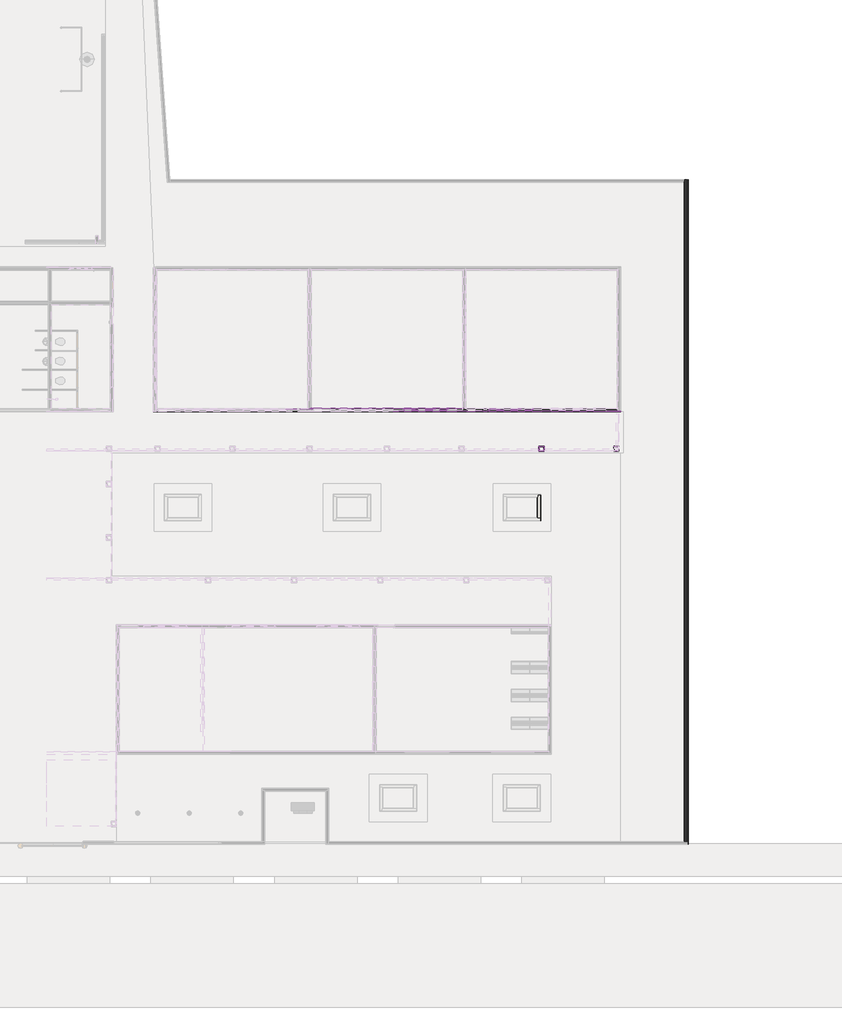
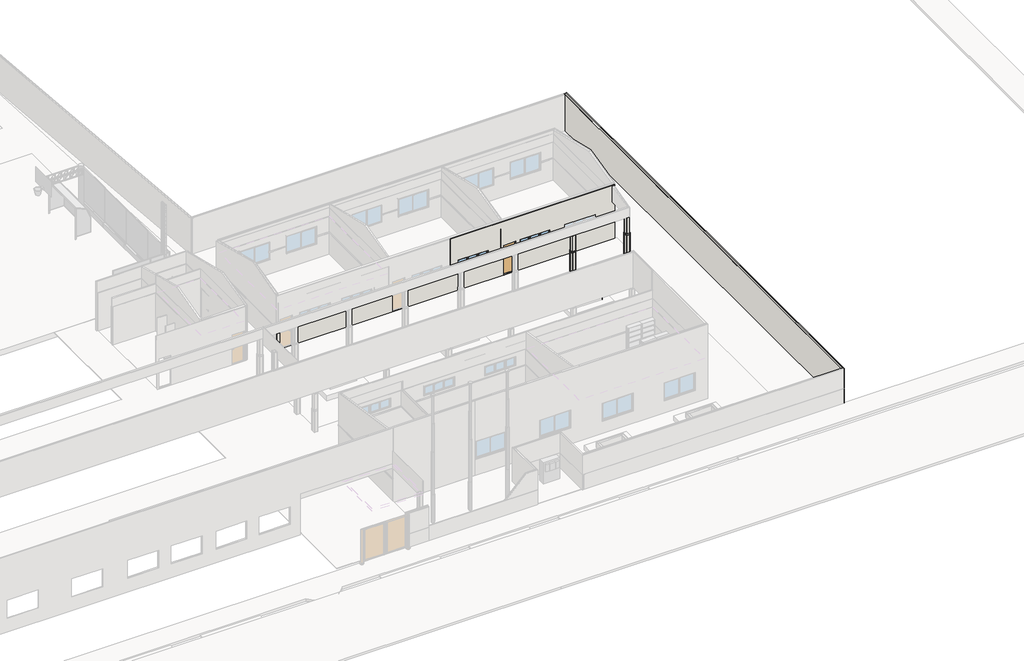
# One storey, part 18 of 28: 36 walls, 2 doors, 2 windows.
"""IFC4 building model written with IfcOpenShell, lengths in millimetres."""

from ifc_helpers import new_model, si_unit, frame, origin, origin_with_axes, place, context, project, spatial, polyline, outline, extrude, faceted_brep, transform, mapped, element, save
from components import door_95b59213, pf15_l82cm_686caa18, window_2x60x220_bcaba8dd

model = new_model("IFC4")

# Units and contexts
model_context = context("Model", 3, world=origin())
ifc_project = project(units=[si_unit("LENGTHUNIT", "METRE", prefix="MILLI")], contexts=[model_context])

# Site, building, storey
site = spatial("IfcSite", under=ifc_project)
building = spatial("IfcBuilding", under=site)
storey = spatial("IfcBuildingStorey", under=building, Name="Térreo", Elevation=0.0)

# Doors
placement = place(None, origin())
door_shape = door_95b59213(model_context)
element("IfcDoor", 1, ObjectType="FDE_SO_Soleiras1 : SO14_SoleiraRampadaDesnívelAté2cm_L=14cm_Cimentado 2", at=placement, inside=storey, context=model_context, shape_type="MappedRepresentation", body=[
    mapped(door_shape, transform((-10337.0, 21100.0, 200.0), x_axis=(-1.0, 0.0, 0.0), y_axis=(0.0, -1.0, 0.0), z_axis=(0.0, 0.0, 1.0))),
])
pf15_l82cm_shape = pf15_l82cm_686caa18(model_context)
element("IfcDoor", 2, ObjectType="FDE_PF15_PF16_PF17_PortaemChapadeFerro : PF15_L82cm", at=placement, inside=storey, context=model_context, shape_type="MappedRepresentation", body=[
    mapped(pf15_l82cm_shape, transform((-10337.0, 21105.0, 200.0), x_axis=(-1.0, 0.0, 0.0), y_axis=(0.0, -1.0, 0.0), z_axis=(0.0, 0.0, 1.0))),
])

# Walls
element("IfcWall", 3, ObjectType="FDE_S712_AlvenariadeTijoloCerâmico/Baiano_Alvenaria_9cm - Existente", at=placement, inside=storey, context=model_context, shape_type="Brep", body=[
    faceted_brep([(-180.0, 32270.0, 0.0), (-180.0, 32180.0, 0.0), (-180.0, 152.3387091, 0.0), (-180.0, 152.3387091, 2545.9092161), (-180.0, 32180.0, 2545.9092161), (-180.0, 32270.0, 2545.9092161), (-90.0, 32270.0, 0.0), (-90.0, 32270.0, 2545.9092161), (-90.0, 152.3387091, 2545.9092161), (-90.0, 152.3387091, 0.0)], [[[0, 1, 2, 3, 4, 5]], [[6, 7, 8, 9]], [[2, 1, 0, 6, 9]], [[5, 4, 3, 8, 7]], [[0, 5, 7, 6]], [[3, 2, 9, 8]]]),
])
element("IfcWall", 4, ObjectType="Muro Edificação", at=placement, inside=storey, context=model_context, shape_type="Brep", body=[
    faceted_brep([(-180.0, 32180.0, 0.0), (-180.0, 32159.0, 0.0), (-180.0, 173.3387091, 0.0), (-180.0, 152.3387091, 0.0), (-180.0, 152.3387091, 2545.9092161), (-180.0, 173.3387091, 2545.9092161), (-180.0, 32159.0, 2545.9092161), (-180.0, 32180.0, 2545.9092161), (-30.0, 32180.0, 0.0), (-30.0, 32180.0, 2545.9092161), (-30.0, 152.3387091, 2545.9092161), (-30.0, 152.3387091, 0.0)], [[[0, 1, 2, 3, 4, 5, 6, 7]], [[8, 9, 10, 11]], [[3, 2, 1, 0, 8, 11]], [[7, 6, 5, 4, 10, 9]], [[0, 7, 9, 8]], [[4, 3, 11, 10]]]),
])
element("IfcWall", 5, ObjectType="Pardes Externas_Pintura Acrílica Branco Neve", at=placement, inside=storey, context=model_context, shape_type="Brep", body=[
    faceted_brep([(-30.0, 32291.0, 0.0), (-30.0, 32270.0, 0.0), (-30.0, 32180.0, 0.0), (-30.0, 152.3387091, 0.0), (-30.0, 62.3387091, 0.0), (-30.0, 32.3387091, 0.0), (-30.0, 32.3387091, 1156.7860555), (-30.0, 41.3387091, 1156.7860555), (-30.0, 41.3387091, 2551.1739106), (-30.0, 62.3387091, 2551.1739106), (-30.0, 32270.0, 2551.1739106), (-30.0, 32291.0, 2551.1739106), (-9.0, 32291.0, 0.0), (-9.0, 32291.0, 2551.1739106), (-9.0, 41.3387091, 2551.1739106), (-9.0, 41.3387091, 1156.7860555), (-9.0, 32.3387091, 1156.7860555), (-9.0, 32.3387091, 0.0)], [[[0, 1, 2, 3, 4, 5, 6, 7, 8, 9, 10, 11]], [[12, 13, 14, 15, 16, 17]], [[5, 4, 3, 2, 1, 0, 12, 17]], [[11, 10, 9, 8, 14, 13]], [[0, 11, 13, 12]], [[15, 7, 6, 16]], [[6, 5, 17, 16]], [[8, 7, 15, 14]]]),
])
element("IfcWall", 6, ObjectType="Revestimento Cerâmico 10x10cm", at=placement, inside=storey, context=model_context, shape_type="Brep", body=[
    faceted_brep([(-10950.0, 21180.0, 0.0), (-18305.0, 21180.0, 0.0), (-18335.0, 21180.0, 0.0), (-18335.0, 21180.0, 1730.1789081), (-18196.0, 21180.0, 1730.1789081), (-18196.0, 21180.0, 220.0), (-17362.0, 21180.0, 220.0), (-17362.0, 21180.0, 1730.1789081), (-16897.0, 21180.0, 1730.1789081), (-16897.0, 21180.0, 1665.0), (-14827.0, 21180.0, 1665.0), (-14827.0, 21180.0, 1730.1789081), (-13789.0, 21180.0, 1730.1789081), (-13789.0, 21180.0, 1665.0), (-11719.0, 21180.0, 1665.0), (-11719.0, 21180.0, 1730.1789081), (-10950.0, 21180.0, 1730.1789081), (-18335.0, 21150.0, 0.0), (-10950.0, 21150.0, 0.0), (-10950.0, 21150.0, 1730.1789081), (-11719.0, 21150.0, 1730.1789081), (-11719.0, 21150.0, 1665.0), (-13789.0, 21150.0, 1665.0), (-13789.0, 21150.0, 1730.1789081), (-14827.0, 21150.0, 1730.1789081), (-14827.0, 21150.0, 1665.0), (-16897.0, 21150.0, 1665.0), (-16897.0, 21150.0, 1730.1789081), (-17362.0, 21150.0, 1730.1789081), (-17362.0, 21150.0, 1600.0), (-17362.0, 21150.0, 220.0), (-18196.0, 21150.0, 220.0), (-18196.0, 21150.0, 1600.0), (-18196.0, 21150.0, 1730.1789081), (-18335.0, 21150.0, 1730.1789081)], [[[0, 1, 2, 3, 4, 5, 6, 7, 8, 9, 10, 11, 12, 13, 14, 15, 16]], [[17, 18, 19, 20, 21, 22, 23, 24, 25, 26, 27, 28, 29, 30, 31, 32, 33, 34]], [[2, 1, 0, 18, 17]], [[19, 16, 15, 20]], [[3, 34, 33, 4]], [[7, 28, 27, 8]], [[23, 12, 11, 24]], [[0, 16, 19, 18]], [[3, 2, 17, 34]], [[31, 5, 4, 33, 32]], [[6, 30, 29, 28, 7]], [[5, 31, 30, 6]], [[14, 21, 20, 15]], [[22, 13, 12, 23]], [[21, 14, 13, 22]], [[10, 25, 24, 11]], [[26, 9, 8, 27]], [[25, 10, 9, 26]]]),
])
element("IfcWall", 7, ObjectType="Pardes Internas_Pintura Acrílica Branco Neve 2", at=placement, inside=storey, context=model_context, shape_type="SweptSolid", body=[
    extrude(outline(polyline([(2900.8, -18320.0), (1824.9435125, -18320.0), (1824.9435125, -18196.0), (2332.0, -18196.0), (2332.0, -17362.0), (1824.9435125, -17362.0), (1824.9435125, -16897.0), (2335.0, -16897.0), (2335.0, -14827.0), (1824.9435125, -14827.0), (1824.9435125, -13789.0), (2335.0, -13789.0), (2335.0, -11719.0), (1824.9435125, -11719.0), (1824.9435125, -10920.0), (2900.8, -10920.0), (2900.8, -18320.0)])), frame((0.0, 21180.0, 0.0), z_axis=(0.0, 1.0, 0.0), x_axis=(0.0, 0.0, 1.0)), (0.0, 0.0, 1.0), 31.0),
])
element("IfcWall", 8, ObjectType="FDE_S712_AlvenariadeTijoloCerâmico/Baiano_Alvenaria_9cm - Existente", at=placement, inside=storey, context=model_context, shape_type="Brep", body=[
    faceted_brep([(-25830.0, 21060.0, 0.0), (-3420.0, 21060.0, 0.0), (-3420.0, 21060.0, 4071.192274), (-25830.0, 21060.0, 4071.192274), (-25730.0, 21060.0, 200.0), (-25730.0, 21060.0, 1731.0528047), (-25730.0, 21060.0, 1824.9435125), (-25730.0, 21060.0, 2312.0), (-24896.0, 21060.0, 2312.0), (-24896.0, 21060.0, 1824.9435125), (-24896.0, 21060.0, 1731.0528047), (-24896.0, 21060.0, 200.0), (-18196.0, 21060.0, 220.0), (-18196.0, 21060.0, 1731.0528047), (-18196.0, 21060.0, 1824.9435125), (-18196.0, 21060.0, 2332.0), (-17362.0, 21060.0, 2332.0), (-17362.0, 21060.0, 1824.9435125), (-17362.0, 21060.0, 1731.0528047), (-17362.0, 21060.0, 220.0), (-22361.0, 21060.0, 2335.0), (-22361.0, 21060.0, 1824.9435125), (-22361.0, 21060.0, 1731.0528047), (-22361.0, 21060.0, 1665.0), (-24431.0, 21060.0, 1665.0), (-24431.0, 21060.0, 1731.0528047), (-24431.0, 21060.0, 1824.9435125), (-24431.0, 21060.0, 2335.0), (-19521.0, 21060.0, 2335.0), (-19521.0, 21060.0, 1824.9435125), (-19521.0, 21060.0, 1731.0528047), (-19521.0, 21060.0, 1665.0), (-21591.0, 21060.0, 1665.0), (-21591.0, 21060.0, 1731.0528047), (-21591.0, 21060.0, 1824.9435125), (-21591.0, 21060.0, 2335.0), (-14827.0, 21060.0, 2335.0), (-14827.0, 21060.0, 1824.9435125), (-14827.0, 21060.0, 1731.0528047), (-14827.0, 21060.0, 1665.0), (-16897.0, 21060.0, 1665.0), (-16897.0, 21060.0, 1731.0528047), (-16897.0, 21060.0, 1824.9435125), (-16897.0, 21060.0, 2335.0), (-10754.0, 21060.0, 200.0), (-10754.0, 21060.0, 1700.0), (-10754.0, 21060.0, 1731.0528047), (-10754.0, 21060.0, 1824.9435125), (-10754.0, 21060.0, 2312.0), (-9920.0, 21060.0, 2312.0), (-9920.0, 21060.0, 1824.9435125), (-9920.0, 21060.0, 1731.0528047), (-9920.0, 21060.0, 1700.0), (-9920.0, 21060.0, 200.0), (-7585.0, 21060.0, 2335.0), (-7585.0, 21060.0, 1824.9435125), (-7585.0, 21060.0, 1731.0528047), (-7585.0, 21060.0, 1700.0), (-7585.0, 21060.0, 1665.0), (-9655.0, 21060.0, 1665.0), (-9655.0, 21060.0, 1700.0), (-9655.0, 21060.0, 1731.0528047), (-9655.0, 21060.0, 1824.9435125), (-9655.0, 21060.0, 2335.0), (-11719.0, 21060.0, 2335.0), (-11719.0, 21060.0, 1824.9435125), (-11719.0, 21060.0, 1731.0528047), (-11719.0, 21060.0, 1700.0), (-11719.0, 21060.0, 1665.0), (-13789.0, 21060.0, 1665.0), (-13789.0, 21060.0, 1700.0), (-13789.0, 21060.0, 1731.0528047), (-13789.0, 21060.0, 1824.9435125), (-13789.0, 21060.0, 2335.0), (-4585.0, 21060.0, 2335.0), (-4585.0, 21060.0, 1824.9435125), (-4585.0, 21060.0, 1731.0528047), (-4585.0, 21060.0, 1700.0), (-4585.0, 21060.0, 1665.0), (-6655.0, 21060.0, 1665.0), (-6655.0, 21060.0, 1700.0), (-6655.0, 21060.0, 1731.0528047), (-6655.0, 21060.0, 1824.9435125), (-6655.0, 21060.0, 2335.0), (-3420.0, 21150.0, 0.0), (-3450.0, 21150.0, 0.0), (-10920.0, 21150.0, 0.0), (-10950.0, 21150.0, 0.0), (-18430.0, 21150.0, 0.0), (-18460.0, 21150.0, 0.0), (-25830.0, 21150.0, 0.0), (-25830.0, 21150.0, 1730.538599), (-25830.0, 21150.0, 4093.692274), (-3420.0, 21150.0, 4093.692274), (-3420.0, 21150.0, 1730.1789081), (-25730.0, 21150.0, 2312.0), (-25730.0, 21150.0, 1824.9435125), (-25730.0, 21150.0, 1730.538599), (-25730.0, 21150.0, 200.0), (-24896.0, 21150.0, 200.0), (-24896.0, 21150.0, 1730.538599), (-24896.0, 21150.0, 1824.9435125), (-24896.0, 21150.0, 2312.0), (-18196.0, 21150.0, 2332.0), (-18196.0, 21150.0, 1824.9435125), (-18196.0, 21150.0, 1731.0528047), (-18196.0, 21150.0, 220.0), (-17362.0, 21150.0, 220.0), (-17362.0, 21150.0, 1731.0528047), (-17362.0, 21150.0, 1824.9435125), (-17362.0, 21150.0, 2332.0), (-11719.0, 21150.0, 1665.0), (-11719.0, 21150.0, 1731.0528047), (-11719.0, 21150.0, 1824.9435125), (-11719.0, 21150.0, 2335.0), (-13789.0, 21150.0, 2335.0), (-13789.0, 21150.0, 1824.9435125), (-13789.0, 21150.0, 1731.0528047), (-13789.0, 21150.0, 1665.0), (-14827.0, 21150.0, 1665.0), (-14827.0, 21150.0, 1731.0528047), (-14827.0, 21150.0, 1824.9435125), (-14827.0, 21150.0, 2335.0), (-16897.0, 21150.0, 2335.0), (-16897.0, 21150.0, 1824.9435125), (-16897.0, 21150.0, 1731.0528047), (-16897.0, 21150.0, 1665.0), (-22361.0, 21150.0, 1665.0), (-22361.0, 21150.0, 1730.538599), (-22361.0, 21150.0, 1731.0528047), (-22361.0, 21150.0, 1824.9435125), (-22361.0, 21150.0, 2335.0), (-24431.0, 21150.0, 2335.0), (-24431.0, 21150.0, 1824.9435125), (-24431.0, 21150.0, 1730.538599), (-24431.0, 21150.0, 1665.0), (-19521.0, 21150.0, 1665.0), (-19521.0, 21150.0, 1730.538599), (-19521.0, 21150.0, 1731.0528047), (-19521.0, 21150.0, 1824.9435125), (-19521.0, 21150.0, 2335.0), (-21591.0, 21150.0, 2335.0), (-21591.0, 21150.0, 1824.9435125), (-21591.0, 21150.0, 1731.0528047), (-21591.0, 21150.0, 1730.538599), (-21591.0, 21150.0, 1665.0), (-10754.0, 21150.0, 2312.0), (-10754.0, 21150.0, 1824.9435125), (-10754.0, 21150.0, 1731.0528047), (-10754.0, 21150.0, 200.0), (-9920.0, 21150.0, 200.0), (-9920.0, 21150.0, 1731.0528047), (-9920.0, 21150.0, 1824.9435125), (-9920.0, 21150.0, 2312.0), (-4585.0, 21150.0, 1665.0), (-4585.0, 21150.0, 1731.0528047), (-4585.0, 21150.0, 1824.9435125), (-4585.0, 21150.0, 2335.0), (-6655.0, 21150.0, 2335.0), (-6655.0, 21150.0, 1824.9435125), (-6655.0, 21150.0, 1731.0528047), (-6655.0, 21150.0, 1665.0), (-7585.0, 21150.0, 1665.0), (-7585.0, 21150.0, 1731.0528047), (-7585.0, 21150.0, 1824.9435125), (-7585.0, 21150.0, 2335.0), (-9655.0, 21150.0, 2335.0), (-9655.0, 21150.0, 1824.9435125), (-9655.0, 21150.0, 1731.0528047), (-9655.0, 21150.0, 1665.0)], [[[0, 1, 2, 3], [4, 5, 6, 7, 8, 9, 10, 11], [12, 13, 14, 15, 16, 17, 18, 19], [20, 21, 22, 23, 24, 25, 26, 27], [28, 29, 30, 31, 32, 33, 34, 35], [36, 37, 38, 39, 40, 41, 42, 43], [44, 45, 46, 47, 48, 49, 50, 51, 52, 53], [54, 55, 56, 57, 58, 59, 60, 61, 62, 63], [64, 65, 66, 67, 68, 69, 70, 71, 72, 73], [74, 75, 76, 77, 78, 79, 80, 81, 82, 83]], [[84, 85, 86, 87, 88, 89, 90, 91, 92, 93, 94], [95, 96, 97, 98, 99, 100, 101, 102], [103, 104, 105, 106, 107, 108, 109, 110], [111, 112, 113, 114, 115, 116, 117, 118], [119, 120, 121, 122, 123, 124, 125, 126], [127, 128, 129, 130, 131, 132, 133, 134, 135], [136, 137, 138, 139, 140, 141, 142, 143, 144, 145], [146, 147, 148, 149, 150, 151, 152, 153], [154, 155, 156, 157, 158, 159, 160, 161], [162, 163, 164, 165, 166, 167, 168, 169]], [[1, 0, 90, 89, 88, 87, 86, 85, 84]], [[4, 98, 97, 96, 95, 7, 6, 5]], [[7, 95, 102, 8]], [[99, 11, 10, 9, 8, 102, 101, 100]], [[98, 4, 11, 99]], [[12, 106, 105, 104, 103, 15, 14, 13]], [[15, 103, 110, 16]], [[107, 19, 18, 17, 16, 110, 109, 108]], [[106, 12, 19, 107]], [[44, 149, 148, 147, 146, 48, 47, 46, 45]], [[48, 146, 153, 49]], [[150, 53, 52, 51, 50, 49, 153, 152, 151]], [[149, 44, 53, 150]], [[154, 78, 77, 76, 75, 74, 157, 156, 155]], [[157, 74, 83, 158]], [[158, 83, 82, 81, 80, 79, 161, 160, 159]], [[78, 154, 161, 79]], [[162, 58, 57, 56, 55, 54, 165, 164, 163]], [[165, 54, 63, 166]], [[166, 63, 62, 61, 60, 59, 169, 168, 167]], [[58, 162, 169, 59]], [[1, 84, 94, 93, 2]], [[3, 2, 93, 92]], [[127, 23, 22, 21, 20, 131, 130, 129, 128]], [[131, 20, 27, 132]], [[132, 27, 26, 25, 24, 135, 134, 133]], [[23, 127, 135, 24]], [[136, 31, 30, 29, 28, 140, 139, 138, 137]], [[140, 28, 35, 141]], [[141, 35, 34, 33, 32, 145, 144, 143, 142]], [[31, 136, 145, 32]], [[111, 68, 67, 66, 65, 64, 114, 113, 112]], [[114, 64, 73, 115]], [[115, 73, 72, 71, 70, 69, 118, 117, 116]], [[68, 111, 118, 69]], [[119, 39, 38, 37, 36, 122, 121, 120]], [[122, 36, 43, 123]], [[123, 43, 42, 41, 40, 126, 125, 124]], [[39, 119, 126, 40]], [[90, 0, 3, 92, 91]]]),
])
element("IfcWall", 9, ObjectType="Revestimento Cerâmico 10x10cm", at=placement, inside=storey, context=model_context, shape_type="Brep", body=[
    faceted_brep([(-25920.0, 21030.0, 0.0), (-3270.0, 21030.0, 0.0), (-3270.0, 21030.0, 1731.0528047), (-4585.0, 21030.0, 1731.0528047), (-4585.0, 21030.0, 1665.0), (-6655.0, 21030.0, 1665.0), (-6655.0, 21030.0, 1731.0528047), (-7585.0, 21030.0, 1731.0528047), (-7585.0, 21030.0, 1665.0), (-9655.0, 21030.0, 1665.0), (-9655.0, 21030.0, 1731.0528047), (-9920.0, 21030.0, 1731.0528047), (-9920.0, 21030.0, 200.0), (-10754.0, 21030.0, 200.0), (-10754.0, 21030.0, 1731.0528047), (-11719.0, 21030.0, 1731.0528047), (-11719.0, 21030.0, 1665.0), (-13789.0, 21030.0, 1665.0), (-13789.0, 21030.0, 1731.0528047), (-14827.0, 21030.0, 1731.0528047), (-14827.0, 21030.0, 1665.0), (-16897.0, 21030.0, 1665.0), (-16897.0, 21030.0, 1731.0528047), (-17362.0, 21030.0, 1731.0528047), (-17362.0, 21030.0, 220.0), (-18196.0, 21030.0, 220.0), (-18196.0, 21030.0, 1731.0528047), (-19521.0, 21030.0, 1731.0528047), (-19521.0, 21030.0, 1665.0), (-21591.0, 21030.0, 1665.0), (-21591.0, 21030.0, 1731.0528047), (-22361.0, 21030.0, 1731.0528047), (-22361.0, 21030.0, 1665.0), (-24431.0, 21030.0, 1665.0), (-24431.0, 21030.0, 1731.0528047), (-24896.0, 21030.0, 1731.0528047), (-24896.0, 21030.0, 200.0), (-25730.0, 21030.0, 200.0), (-25730.0, 21030.0, 1731.0528047), (-25920.0, 21030.0, 1731.0528047), (-25950.0, 21030.0, 1731.0528047), (-25950.0, 21030.0, 220.0), (-25920.0, 21030.0, 220.0), (-3270.0, 21060.0, 0.0), (-3300.0, 21060.0, 0.0), (-3420.0, 21060.0, 0.0), (-10920.0, 21060.0, 0.0), (-18335.0, 21060.0, 0.0), (-25830.0, 21060.0, 0.0), (-25920.0, 21060.0, 0.0), (-25920.0, 21060.0, 220.0), (-25950.0, 21060.0, 220.0), (-25950.0, 21060.0, 1731.0528047), (-25920.0, 21060.0, 1731.0528047), (-25730.0, 21060.0, 1731.0528047), (-25730.0, 21060.0, 200.0), (-24896.0, 21060.0, 200.0), (-24896.0, 21060.0, 1731.0528047), (-24431.0, 21060.0, 1731.0528047), (-24431.0, 21060.0, 1665.0), (-22361.0, 21060.0, 1665.0), (-22361.0, 21060.0, 1731.0528047), (-21591.0, 21060.0, 1731.0528047), (-21591.0, 21060.0, 1665.0), (-19521.0, 21060.0, 1665.0), (-19521.0, 21060.0, 1731.0528047), (-18920.0, 21060.0, 1731.0528047), (-18196.0, 21060.0, 1731.0528047), (-18196.0, 21060.0, 220.0), (-17362.0, 21060.0, 220.0), (-17362.0, 21060.0, 1731.0528047), (-16897.0, 21060.0, 1731.0528047), (-16897.0, 21060.0, 1665.0), (-14827.0, 21060.0, 1665.0), (-14827.0, 21060.0, 1731.0528047), (-13789.0, 21060.0, 1731.0528047), (-13789.0, 21060.0, 1665.0), (-11719.0, 21060.0, 1665.0), (-11719.0, 21060.0, 1731.0528047), (-10754.0, 21060.0, 1731.0528047), (-10754.0, 21060.0, 200.0), (-9920.0, 21060.0, 200.0), (-9920.0, 21060.0, 1731.0528047), (-9655.0, 21060.0, 1731.0528047), (-9655.0, 21060.0, 1665.0), (-7585.0, 21060.0, 1665.0), (-7585.0, 21060.0, 1731.0528047), (-6655.0, 21060.0, 1731.0528047), (-6655.0, 21060.0, 1665.0), (-4585.0, 21060.0, 1665.0), (-4585.0, 21060.0, 1731.0528047), (-3270.0, 21060.0, 1731.0528047)], [[[0, 1, 2, 3, 4, 5, 6, 7, 8, 9, 10, 11, 12, 13, 14, 15, 16, 17, 18, 19, 20, 21, 22, 23, 24, 25, 26, 27, 28, 29, 30, 31, 32, 33, 34, 35, 36, 37, 38, 39, 40, 41, 42]], [[43, 44, 45, 46, 47, 48, 49, 50, 51, 52, 53, 54, 55, 56, 57, 58, 59, 60, 61, 62, 63, 64, 65, 66, 67, 68, 69, 70, 71, 72, 73, 74, 75, 76, 77, 78, 79, 80, 81, 82, 83, 84, 85, 86, 87, 88, 89, 90, 91]], [[1, 0, 49, 48, 47, 46, 45, 44, 43]], [[61, 31, 30, 62]], [[34, 58, 57, 35]], [[65, 27, 26, 67, 66]], [[74, 19, 18, 75]], [[22, 71, 70, 23]], [[78, 15, 14, 79]], [[86, 7, 6, 87]], [[10, 83, 82, 11]], [[2, 91, 90, 3]], [[40, 39, 38, 54, 53, 52]], [[13, 80, 79, 14]], [[81, 12, 11, 82]], [[80, 13, 12, 81]], [[89, 4, 3, 90]], [[5, 88, 87, 6]], [[4, 89, 88, 5]], [[85, 8, 7, 86]], [[9, 84, 83, 10]], [[8, 85, 84, 9]], [[60, 32, 31, 61]], [[33, 59, 58, 34]], [[32, 60, 59, 33]], [[64, 28, 27, 65]], [[29, 63, 62, 30]], [[28, 64, 63, 29]], [[73, 20, 19, 74]], [[21, 72, 71, 22]], [[20, 73, 72, 21]], [[77, 16, 15, 78]], [[17, 76, 75, 18]], [[16, 77, 76, 17]], [[25, 68, 67, 26]], [[69, 24, 23, 70]], [[68, 25, 24, 69]], [[37, 55, 54, 38]], [[56, 36, 35, 57]], [[55, 37, 36, 56]], [[1, 43, 91, 2]], [[51, 50, 42, 41]], [[49, 0, 42, 50]], [[40, 52, 51, 41]]]),
])
element("IfcWall", 10, ObjectType="Faixa - Revestimento Cerâmico Verde Folha 10x10cm", at=placement, inside=storey, context=model_context, shape_type="Brep", body=[
    faceted_brep([(-10754.0, 21060.0, 1824.9435125), (-10754.0, 21060.0, 1731.0528047), (-11719.0, 21060.0, 1731.0528047), (-11719.0, 21060.0, 1824.9435125), (-10754.0, 21030.0, 1731.0528047), (-10754.0, 21030.0, 1824.9435125), (-11719.0, 21030.0, 1824.9435125), (-11719.0, 21030.0, 1731.0528047), (-10754.0, 21039.0, 1731.0528047), (-11719.0, 21039.0, 1731.0528047), (-10754.0, 21039.0, 1824.9435125), (-11719.0, 21039.0, 1824.9435125)], [[[0, 1, 2, 3]], [[4, 5, 6, 7]], [[1, 8, 4, 7, 9, 2]], [[5, 10, 0, 3, 11, 6]], [[1, 0, 10, 5, 4, 8]], [[3, 2, 9, 7, 6, 11]]]),
    faceted_brep([(-9920.0, 21060.0, 1731.0528047), (-9920.0, 21060.0, 1824.9435125), (-9655.0, 21060.0, 1824.9435125), (-9655.0, 21060.0, 1731.0528047), (-9920.0, 21030.0, 1824.9435125), (-9920.0, 21030.0, 1731.0528047), (-9655.0, 21030.0, 1731.0528047), (-9655.0, 21030.0, 1824.9435125), (-9920.0, 21039.0, 1731.0528047), (-9655.0, 21039.0, 1731.0528047), (-9920.0, 21039.0, 1824.9435125), (-9655.0, 21039.0, 1824.9435125)], [[[0, 1, 2, 3]], [[4, 5, 6, 7]], [[5, 8, 0, 3, 9, 6]], [[1, 10, 4, 7, 11, 2]], [[1, 0, 8, 5, 4, 10]], [[3, 2, 11, 7, 6, 9]]]),
    faceted_brep([(-7585.0, 21060.0, 1731.0528047), (-7585.0, 21060.0, 1824.9435125), (-6655.0, 21060.0, 1824.9435125), (-6655.0, 21060.0, 1731.0528047), (-7585.0, 21030.0, 1824.9435125), (-7585.0, 21030.0, 1731.0528047), (-6655.0, 21030.0, 1731.0528047), (-6655.0, 21030.0, 1824.9435125), (-7585.0, 21039.0, 1731.0528047), (-6655.0, 21039.0, 1731.0528047), (-7585.0, 21039.0, 1824.9435125), (-6655.0, 21039.0, 1824.9435125)], [[[0, 1, 2, 3]], [[4, 5, 6, 7]], [[5, 8, 0, 3, 9, 6]], [[1, 10, 4, 7, 11, 2]], [[1, 0, 8, 5, 4, 10]], [[3, 2, 11, 7, 6, 9]]]),
    faceted_brep([(-13789.0, 21060.0, 1824.9435125), (-13789.0, 21060.0, 1731.0528047), (-14315.0, 21060.0, 1731.0528047), (-14827.0, 21060.0, 1731.0528047), (-14827.0, 21060.0, 1824.9435125), (-14315.0, 21060.0, 1824.9435125), (-13789.0, 21030.0, 1731.0528047), (-13789.0, 21030.0, 1824.9435125), (-14827.0, 21030.0, 1824.9435125), (-14827.0, 21030.0, 1731.0528047), (-13789.0, 21039.0, 1731.0528047), (-13789.0, 21039.0, 1824.9435125), (-14827.0, 21039.0, 1824.9435125)], [[[0, 1, 2, 3, 4, 5]], [[6, 7, 8, 9]], [[1, 10, 6, 9, 3, 2]], [[7, 11, 0, 5, 4, 12, 8]], [[1, 0, 11, 7, 6, 10]], [[4, 3, 9, 8, 12]]]),
    faceted_brep([(-3270.0, 21060.0, 1824.9435125), (-3270.0, 21060.0, 1731.0528047), (-4585.0, 21060.0, 1731.0528047), (-4585.0, 21060.0, 1824.9435125), (-3270.0, 21030.0, 1731.0528047), (-3270.0, 21030.0, 1824.9435125), (-4585.0, 21030.0, 1824.9435125), (-4585.0, 21030.0, 1731.0528047), (-3270.0, 21039.0, 1731.0528047), (-4585.0, 21039.0, 1731.0528047), (-3270.0, 21039.0, 1824.9435125), (-4585.0, 21039.0, 1824.9435125)], [[[0, 1, 2, 3]], [[4, 5, 6, 7]], [[1, 8, 4, 7, 9, 2]], [[5, 10, 0, 3, 11, 6]], [[4, 8, 1, 0, 10, 5]], [[3, 2, 9, 7, 6, 11]]]),
])
element("IfcWall", 11, ObjectType="Pardes Externas_Pintura Acrílica Branco Neve", at=placement, inside=storey, context=model_context, shape_type="Brep", body=[
    faceted_brep([(-7246.0, 19330.0, 1794.0), (-7225.0, 19330.0, 1794.0), (-7025.0, 19330.0, 1794.0), (-7004.0, 19330.0, 1794.0), (-7004.0, 19330.0, 2900.0), (-7025.0, 19330.0, 2900.0), (-7225.0, 19330.0, 2900.0), (-7246.0, 19330.0, 2900.0), (-7246.0, 19351.0, 1794.0), (-7246.0, 19351.0, 2900.0), (-7004.0, 19351.0, 2900.0), (-7004.0, 19351.0, 1794.0)], [[[0, 1, 2, 3, 4, 5, 6, 7]], [[8, 9, 10, 11]], [[3, 2, 1, 0, 8, 11]], [[7, 6, 5, 4, 10, 9]], [[0, 7, 9, 8]], [[4, 3, 11, 10]]]),
])
element("IfcWall", 12, ObjectType="Revestimento Cerâmico 10x10cm", at=placement, inside=storey, context=model_context, shape_type="Brep", body=[
    faceted_brep([(-7255.0, 19330.0, 194.0), (-7225.0, 19330.0, 194.0), (-7025.0, 19330.0, 194.0), (-6995.0, 19330.0, 194.0), (-6995.0, 19330.0, 1694.0), (-7025.0, 19330.0, 1694.0), (-7225.0, 19330.0, 1694.0), (-7255.0, 19330.0, 1694.0), (-7255.0, 19360.0, 194.0), (-7255.0, 19360.0, 1694.0), (-6995.0, 19360.0, 1694.0), (-6995.0, 19360.0, 194.0)], [[[0, 1, 2, 3, 4, 5, 6, 7]], [[8, 9, 10, 11]], [[3, 2, 1, 0, 8, 11]], [[7, 6, 5, 4, 10, 9]], [[0, 7, 9, 8]], [[4, 3, 11, 10]]]),
])
element("IfcWall", 13, ObjectType="Revestimento Cerâmico 10x10cm", at=placement, inside=storey, context=model_context, shape_type="Brep", body=[
    faceted_brep([(-7225.0, 19100.0, 194.0), (-7225.0, 19130.0, 194.0), (-7225.0, 19330.0, 194.0), (-7225.0, 19330.0, 1694.0), (-7225.0, 19130.0, 1694.0), (-7225.0, 19100.0, 1694.0), (-7255.0, 19100.0, 194.0), (-7255.0, 19100.0, 1694.0), (-7255.0, 19330.0, 1694.0), (-7255.0, 19330.0, 194.0)], [[[0, 1, 2, 3, 4, 5]], [[6, 7, 8, 9]], [[2, 1, 0, 6, 9]], [[5, 4, 3, 8, 7]], [[3, 2, 9, 8]], [[0, 5, 7, 6]]]),
])
element("IfcWall", 14, ObjectType="Revestimento Cerâmico 10x10cm", at=placement, inside=storey, context=model_context, shape_type="Brep", body=[
    faceted_brep([(-7025.0, 19330.0, 194.0), (-7025.0, 19130.0, 194.0), (-7025.0, 19100.0, 194.0), (-7025.0, 19100.0, 1694.0), (-7025.0, 19130.0, 1694.0), (-7025.0, 19330.0, 1694.0), (-6995.0, 19330.0, 194.0), (-6995.0, 19330.0, 1694.0), (-6995.0, 19100.0, 1694.0), (-6995.0, 19100.0, 194.0)], [[[0, 1, 2, 3, 4, 5]], [[6, 7, 8, 9]], [[2, 1, 0, 6, 9]], [[5, 4, 3, 8, 7]], [[0, 5, 7, 6]], [[3, 2, 9, 8]]]),
])
element("IfcWall", 15, ObjectType="Revestimento Cerâmico 10x10cm", at=placement, inside=storey, context=model_context, shape_type="SweptSolid", body=[
    extrude(outline(polyline([(-7025.0, 19100.0), (-7225.0, 19100.0), (-7225.0, 19130.0), (-7025.0, 19130.0), (-7025.0, 19100.0)])), frame((0.0, 0.0, 194.0), z_axis=(0.0, 0.0, 1.0), x_axis=(1.0, 0.0, 0.0)), (0.0, 0.0, 1.0), 1500.0),
])
element("IfcWall", 16, ObjectType="Faixa - Revestimento Cerâmico Verde Folha 10x10cm", at=placement, inside=storey, context=model_context, shape_type="Brep", body=[
    faceted_brep([(-7255.0, 19330.0, 1694.0), (-7225.0, 19330.0, 1694.0), (-7025.0, 19330.0, 1694.0), (-6995.0, 19330.0, 1694.0), (-6995.0, 19330.0, 1794.0), (-7025.0, 19330.0, 1794.0), (-7225.0, 19330.0, 1794.0), (-7255.0, 19330.0, 1794.0), (-7255.0, 19360.0, 1694.0), (-7255.0, 19360.0, 1794.0), (-6995.0, 19360.0, 1794.0), (-6995.0, 19360.0, 1694.0)], [[[0, 1, 2, 3, 4, 5, 6, 7]], [[8, 9, 10, 11]], [[3, 2, 1, 0, 8, 11]], [[7, 6, 5, 4, 10, 9]], [[4, 3, 11, 10]], [[0, 7, 9, 8]]]),
])
element("IfcWall", 17, ObjectType="Faixa - Revestimento Cerâmico Verde Folha 10x10cm", at=placement, inside=storey, context=model_context, shape_type="Brep", body=[
    faceted_brep([(-7025.0, 19330.0, 1694.0), (-7025.0, 19130.0, 1694.0), (-7025.0, 19100.0, 1694.0), (-7025.0, 19100.0, 1794.0), (-7025.0, 19130.0, 1794.0), (-7025.0, 19330.0, 1794.0), (-6995.0, 19330.0, 1694.0), (-6995.0, 19330.0, 1794.0), (-6995.0, 19100.0, 1794.0), (-6995.0, 19100.0, 1694.0)], [[[0, 1, 2, 3, 4, 5]], [[6, 7, 8, 9]], [[2, 1, 0, 6, 9]], [[5, 4, 3, 8, 7]], [[0, 5, 7, 6]], [[3, 2, 9, 8]]]),
])
element("IfcWall", 18, ObjectType="Faixa - Revestimento Cerâmico Verde Folha 10x10cm", at=placement, inside=storey, context=model_context, shape_type="Brep", body=[
    faceted_brep([(-7255.0, 19100.0, 1694.0), (-7025.0, 19100.0, 1694.0), (-7025.0, 19100.0, 1794.0), (-7255.0, 19100.0, 1794.0), (-7255.0, 19130.0, 1694.0), (-7255.0, 19130.0, 1794.0), (-7225.0, 19130.0, 1794.0), (-7025.0, 19130.0, 1794.0), (-7025.0, 19130.0, 1694.0), (-7225.0, 19130.0, 1694.0), (-7025.0, 19109.0, 1794.0)], [[[0, 1, 2, 3]], [[4, 5, 6, 7, 8, 9]], [[1, 0, 4, 9, 8]], [[3, 2, 10, 7, 6, 5]], [[2, 1, 8, 7, 10]], [[0, 3, 5, 4]]]),
])
element("IfcWall", 19, ObjectType="Faixa - Revestimento Cerâmico Verde Folha 10x10cm", at=placement, inside=storey, context=model_context, shape_type="SweptSolid", body=[
    extrude(outline(polyline([(-7255.0, 19130.0), (-7255.0, 19330.0), (-7225.0, 19330.0), (-7225.0, 19130.0), (-7255.0, 19130.0)])), frame((0.0, 0.0, 1694.0), z_axis=(0.0, 0.0, 1.0), x_axis=(1.0, 0.0, 0.0)), (0.0, 0.0, 1.0), 100.0),
])
element("IfcWall", 20, ObjectType="Pardes Externas_Pintura Acrílica Branco Neve", at=placement, inside=storey, context=model_context, shape_type="SweptSolid", body=[
    extrude(outline(polyline([(-7025.0, 19109.0), (-7225.0, 19109.0), (-7225.0, 19130.0), (-7025.0, 19130.0), (-7025.0, 19109.0)])), frame((0.0, 0.0, 1794.0), z_axis=(0.0, 0.0, 1.0), x_axis=(1.0, 0.0, 0.0)), (0.0, 0.0, 1.0), 1106.0),
])
element("IfcWall", 21, ObjectType="Pardes Externas_Pintura Acrílica Branco Neve", at=placement, inside=storey, context=model_context, shape_type="Brep", body=[
    faceted_brep([(-7025.0, 19330.0, 1794.0), (-7025.0, 19130.0, 1794.0), (-7025.0, 19109.0, 1794.0), (-7025.0, 19109.0, 2900.0), (-7025.0, 19130.0, 2900.0), (-7025.0, 19330.0, 2900.0), (-7004.0, 19330.0, 1794.0), (-7004.0, 19330.0, 2900.0), (-7004.0, 19109.0, 2900.0), (-7004.0, 19109.0, 1794.0)], [[[0, 1, 2, 3, 4, 5]], [[6, 7, 8, 9]], [[2, 1, 0, 6, 9]], [[5, 4, 3, 8, 7]], [[3, 2, 9, 8]], [[0, 5, 7, 6]]]),
])
element("IfcWall", 22, ObjectType="Pardes Externas_Pintura Acrílica Branco Neve", at=placement, inside=storey, context=model_context, shape_type="Brep", body=[
    faceted_brep([(-7246.0, 19330.0, 1794.0), (-7246.0, 19109.0, 1794.0), (-7246.0, 19109.0, 2900.0), (-7246.0, 19330.0, 2900.0), (-7225.0, 19330.0, 1794.0), (-7225.0, 19330.0, 2900.0), (-7225.0, 19130.0, 2900.0), (-7225.0, 19109.0, 2900.0), (-7225.0, 19109.0, 1794.0), (-7225.0, 19130.0, 1794.0)], [[[0, 1, 2, 3]], [[4, 5, 6, 7, 8, 9]], [[1, 0, 4, 9, 8]], [[3, 2, 7, 6, 5]], [[2, 1, 8, 7]], [[0, 3, 5, 4]]]),
])
element("IfcWall", 23, ObjectType="Pardes Externas_Pintura Acrílica Branco Neve", at=placement, inside=storey, context=model_context, shape_type="Brep", body=[
    faceted_brep([(-3621.0, 19330.0, 1794.0), (-3600.0, 19330.0, 1794.0), (-3400.0, 19330.0, 1794.0), (-3379.0, 19330.0, 1794.0), (-3379.0, 19330.0, 2900.0), (-3400.0, 19330.0, 2900.0), (-3600.0, 19330.0, 2900.0), (-3621.0, 19330.0, 2900.0), (-3621.0, 19351.0, 1794.0), (-3621.0, 19351.0, 2900.0), (-3379.0, 19351.0, 2900.0), (-3379.0, 19351.0, 1794.0)], [[[0, 1, 2, 3, 4, 5, 6, 7]], [[8, 9, 10, 11]], [[3, 2, 1, 0, 8, 11]], [[7, 6, 5, 4, 10, 9]], [[0, 7, 9, 8]], [[4, 3, 11, 10]]]),
])
element("IfcWall", 24, ObjectType="Revestimento Cerâmico 10x10cm", at=placement, inside=storey, context=model_context, shape_type="Brep", body=[
    faceted_brep([(-3630.0, 19330.0, 194.0), (-3600.0, 19330.0, 194.0), (-3400.0, 19330.0, 194.0), (-3370.0, 19330.0, 194.0), (-3370.0, 19330.0, 1694.0), (-3400.0, 19330.0, 1694.0), (-3600.0, 19330.0, 1694.0), (-3630.0, 19330.0, 1694.0), (-3630.0, 19360.0, 194.0), (-3630.0, 19360.0, 1694.0), (-3370.0, 19360.0, 1694.0), (-3370.0, 19360.0, 194.0)], [[[0, 1, 2, 3, 4, 5, 6, 7]], [[8, 9, 10, 11]], [[3, 2, 1, 0, 8, 11]], [[7, 6, 5, 4, 10, 9]], [[0, 7, 9, 8]], [[4, 3, 11, 10]]]),
])
element("IfcWall", 25, ObjectType="Revestimento Cerâmico 10x10cm", at=placement, inside=storey, context=model_context, shape_type="Brep", body=[
    faceted_brep([(-3600.0, 19100.0, 194.0), (-3600.0, 19130.0, 194.0), (-3600.0, 19330.0, 194.0), (-3600.0, 19330.0, 1694.0), (-3600.0, 19130.0, 1694.0), (-3600.0, 19100.0, 1694.0), (-3630.0, 19100.0, 194.0), (-3630.0, 19100.0, 1694.0), (-3630.0, 19330.0, 1694.0), (-3630.0, 19330.0, 194.0)], [[[0, 1, 2, 3, 4, 5]], [[6, 7, 8, 9]], [[2, 1, 0, 6, 9]], [[5, 4, 3, 8, 7]], [[3, 2, 9, 8]], [[0, 5, 7, 6]]]),
])
element("IfcWall", 26, ObjectType="Revestimento Cerâmico 10x10cm", at=placement, inside=storey, context=model_context, shape_type="Brep", body=[
    faceted_brep([(-3400.0, 19330.0, 194.0), (-3400.0, 19130.0, 194.0), (-3400.0, 19100.0, 194.0), (-3400.0, 19100.0, 1694.0), (-3400.0, 19130.0, 1694.0), (-3400.0, 19330.0, 1694.0), (-3370.0, 19330.0, 194.0), (-3370.0, 19330.0, 1694.0), (-3370.0, 19100.0, 1694.0), (-3370.0, 19100.0, 194.0)], [[[0, 1, 2, 3, 4, 5]], [[6, 7, 8, 9]], [[2, 1, 0, 6, 9]], [[5, 4, 3, 8, 7]], [[0, 5, 7, 6]], [[3, 2, 9, 8]]]),
])
element("IfcWall", 27, ObjectType="Revestimento Cerâmico 10x10cm", at=placement, inside=storey, context=model_context, shape_type="SweptSolid", body=[
    extrude(outline(polyline([(-3400.0, 19100.0), (-3600.0, 19100.0), (-3600.0, 19130.0), (-3400.0, 19130.0), (-3400.0, 19100.0)])), frame((0.0, 0.0, 194.0), z_axis=(0.0, 0.0, 1.0), x_axis=(1.0, 0.0, 0.0)), (0.0, 0.0, 1.0), 1500.0),
])
element("IfcWall", 28, ObjectType="Faixa - Revestimento Cerâmico Verde Folha 10x10cm", at=placement, inside=storey, context=model_context, shape_type="Brep", body=[
    faceted_brep([(-3630.0, 19330.0, 1694.0), (-3600.0, 19330.0, 1694.0), (-3400.0, 19330.0, 1694.0), (-3370.0, 19330.0, 1694.0), (-3370.0, 19330.0, 1794.0), (-3400.0, 19330.0, 1794.0), (-3600.0, 19330.0, 1794.0), (-3630.0, 19330.0, 1794.0), (-3630.0, 19360.0, 1694.0), (-3630.0, 19360.0, 1794.0), (-3370.0, 19360.0, 1794.0), (-3370.0, 19360.0, 1694.0)], [[[0, 1, 2, 3, 4, 5, 6, 7]], [[8, 9, 10, 11]], [[3, 2, 1, 0, 8, 11]], [[7, 6, 5, 4, 10, 9]], [[4, 3, 11, 10]], [[0, 7, 9, 8]]]),
])
element("IfcWall", 29, ObjectType="Faixa - Revestimento Cerâmico Verde Folha 10x10cm", at=placement, inside=storey, context=model_context, shape_type="Brep", body=[
    faceted_brep([(-3400.0, 19330.0, 1694.0), (-3400.0, 19130.0, 1694.0), (-3400.0, 19100.0, 1694.0), (-3400.0, 19100.0, 1794.0), (-3400.0, 19130.0, 1794.0), (-3400.0, 19330.0, 1794.0), (-3370.0, 19330.0, 1694.0), (-3370.0, 19330.0, 1794.0), (-3370.0, 19100.0, 1794.0), (-3370.0, 19100.0, 1694.0)], [[[0, 1, 2, 3, 4, 5]], [[6, 7, 8, 9]], [[2, 1, 0, 6, 9]], [[5, 4, 3, 8, 7]], [[0, 5, 7, 6]], [[3, 2, 9, 8]]]),
])
element("IfcWall", 30, ObjectType="Faixa - Revestimento Cerâmico Verde Folha 10x10cm", at=placement, inside=storey, context=model_context, shape_type="Brep", body=[
    faceted_brep([(-3630.0, 19100.0, 1694.0), (-3400.0, 19100.0, 1694.0), (-3400.0, 19100.0, 1794.0), (-3630.0, 19100.0, 1794.0), (-3630.0, 19130.0, 1694.0), (-3630.0, 19130.0, 1794.0), (-3600.0, 19130.0, 1794.0), (-3400.0, 19130.0, 1794.0), (-3400.0, 19130.0, 1694.0), (-3600.0, 19130.0, 1694.0), (-3400.0, 19109.0, 1794.0)], [[[0, 1, 2, 3]], [[4, 5, 6, 7, 8, 9]], [[1, 0, 4, 9, 8]], [[3, 2, 10, 7, 6, 5]], [[0, 3, 5, 4]], [[2, 1, 8, 7, 10]]]),
])
element("IfcWall", 31, ObjectType="Faixa - Revestimento Cerâmico Verde Folha 10x10cm", at=placement, inside=storey, context=model_context, shape_type="SweptSolid", body=[
    extrude(outline(polyline([(-3630.0, 19130.0), (-3630.0, 19330.0), (-3600.0, 19330.0), (-3600.0, 19130.0), (-3630.0, 19130.0)])), frame((0.0, 0.0, 1694.0), z_axis=(0.0, 0.0, 1.0), x_axis=(1.0, 0.0, 0.0)), (0.0, 0.0, 1.0), 100.0),
])
element("IfcWall", 32, ObjectType="Pardes Externas_Pintura Acrílica Branco Neve", at=placement, inside=storey, context=model_context, shape_type="Brep", body=[
    faceted_brep([(-3600.0, 19109.0, 1794.0), (-3400.0, 19109.0, 1794.0), (-3400.0, 19109.0, 2900.0), (-3409.0, 19109.0, 2900.0), (-3600.0, 19109.0, 2900.0), (-3600.0, 19130.0, 1794.0), (-3600.0, 19130.0, 2900.0), (-3400.0, 19130.0, 2900.0), (-3400.0, 19130.0, 1794.0)], [[[0, 1, 2, 3, 4]], [[5, 6, 7, 8]], [[1, 0, 5, 8]], [[4, 3, 2, 7, 6]], [[0, 4, 6, 5]], [[2, 1, 8, 7]]]),
])
element("IfcWall", 33, ObjectType="FDE_S713_AlvenariadeTijoloLaminadoaVista_Alvenaria_1/2TijoloAlternado_11,5cm", at=placement, inside=storey, context=model_context, shape_type="Brep", body=[
    faceted_brep([(-7192.0948906, 15867.1451949, 100.0), (-7192.0948906, 17010.1451949, 100.0), (-7192.0948906, 17010.1451949, 800.0), (-7192.0948906, 15867.1451949, 800.0), (-7307.0948906, 15867.1451949, 100.0), (-7307.0948906, 15867.1451949, 800.0), (-7307.0948906, 16895.1451949, 800.0), (-7307.0948906, 17010.1451949, 800.0), (-7307.0948906, 17010.1451949, 179.0468845), (-7307.0948906, 17010.1451949, 100.0)], [[[0, 1, 2, 3]], [[4, 5, 6, 7, 8, 9]], [[1, 0, 4, 9]], [[3, 2, 7, 6, 5]], [[2, 1, 9, 8, 7]], [[0, 3, 5, 4]]]),
])
element("IfcWall", 34, ObjectType="Pardes Externas_Pintura Acrílica Branco Neve", at=placement, inside=storey, context=model_context, shape_type="Brep", body=[
    faceted_brep([(-7192.0948906, 17010.1451949, 100.0), (-7192.0948906, 15752.1451949, 100.0), (-7192.0948906, 15731.1451949, 100.0), (-7192.0948906, 15731.1451949, 800.0), (-7192.0948906, 15752.1451949, 800.0), (-7192.0948906, 17010.1451949, 800.0), (-7171.0948906, 17010.1451949, 100.0), (-7171.0948906, 17010.1451949, 800.0), (-7171.0948906, 15731.1451949, 800.0), (-7171.0948906, 15731.1451949, 100.0)], [[[0, 1, 2, 3, 4, 5]], [[6, 7, 8, 9]], [[2, 1, 0, 6, 9]], [[5, 4, 3, 8, 7]], [[0, 5, 7, 6]], [[3, 2, 9, 8]]]),
])
element("IfcWall", 35, ObjectType="Pardes Externas_Pintura Acrílica Branco Neve", at=placement, inside=storey, context=model_context, shape_type="Brep", body=[
    faceted_brep([(-7307.0948906, 15867.1451949, 0.0), (-7307.0948906, 16895.1451949, 0.0), (-7307.0948906, 16895.1451949, 800.0), (-7307.0948906, 15867.1451949, 800.0), (-7328.0948906, 15867.1451949, 0.0), (-7328.0948906, 15867.1451949, 800.0), (-7328.0948906, 15888.1451949, 800.0), (-7328.0948906, 16874.1451949, 800.0), (-7328.0948906, 16895.1451949, 800.0), (-7328.0948906, 16895.1451949, 0.0), (-7328.0948906, 16874.1451949, 0.0), (-7328.0948906, 15888.1451949, 0.0)], [[[0, 1, 2, 3]], [[4, 5, 6, 7, 8, 9, 10, 11]], [[1, 0, 4, 11, 10, 9]], [[3, 2, 8, 7, 6, 5]], [[2, 1, 9, 8]], [[0, 3, 5, 4]]]),
])
element("IfcWall", 36, ObjectType="Pardes Externas_Pintura Acrílica Branco Neve", at=placement, inside=storey, context=model_context, shape_type="SweptSolid", body=[
    extrude(outline(polyline([(4013.8205229, -3270.0), (4013.8205229, -14315.0), (1824.9435125, -14315.0), (1824.9435125, -13789.0), (2335.0, -13789.0), (2335.0, -11719.0), (1824.9435125, -11719.0), (1824.9435125, -10754.0), (2312.0, -10754.0), (2312.0, -9920.0), (1824.9435125, -9920.0), (1824.9435125, -9655.0), (2335.0, -9655.0), (2335.0, -7585.0), (1824.9435125, -7585.0), (1824.9435125, -6655.0), (2335.0, -6655.0), (2335.0, -4585.0), (1824.9435125, -4585.0), (1824.9435125, -3270.0), (4013.8205229, -3270.0)])), frame((0.0, 21039.0, 0.0), z_axis=(0.0, 1.0, 0.0), x_axis=(0.0, 0.0, 1.0)), (0.0, 0.0, 1.0), 21.0),
    extrude(outline(polyline([(-10754.0, 21060.0), (-10754.0, 21039.0), (-11719.0, 21039.0), (-11719.0, 21060.0), (-10754.0, 21060.0)])), frame((0.0, 0.0, 1700.0), z_axis=(0.0, 0.0, 1.0), x_axis=(1.0, 0.0, 0.0)), (0.0, 0.0, 1.0), 31.0528047),
    extrude(outline(polyline([(-14315.0, 21039.0), (-14315.0, 21060.0), (-13789.0, 21060.0), (-13789.0, 21039.0), (-14315.0, 21039.0)])), frame((0.0, 0.0, 1700.0), z_axis=(0.0, 0.0, 1.0), x_axis=(1.0, 0.0, 0.0)), (0.0, 0.0, 1.0), 31.0528047),
    extrude(outline(polyline([(-9920.0, 21039.0), (-9920.0, 21060.0), (-9655.0, 21060.0), (-9655.0, 21039.0), (-9920.0, 21039.0)])), frame((0.0, 0.0, 1700.0), z_axis=(0.0, 0.0, 1.0), x_axis=(1.0, 0.0, 0.0)), (0.0, 0.0, 1.0), 31.0528047),
    extrude(outline(polyline([(-3270.0, 21060.0), (-3270.0, 21039.0), (-4585.0, 21039.0), (-4585.0, 21060.0), (-3270.0, 21060.0)])), frame((0.0, 0.0, 1700.0), z_axis=(0.0, 0.0, 1.0), x_axis=(1.0, 0.0, 0.0)), (0.0, 0.0, 1.0), 31.0528047),
    extrude(outline(polyline([(-7585.0, 21039.0), (-7585.0, 21060.0), (-6655.0, 21060.0), (-6655.0, 21039.0), (-7585.0, 21039.0)])), frame((0.0, 0.0, 1700.0), z_axis=(0.0, 0.0, 1.0), x_axis=(1.0, 0.0, 0.0)), (0.0, 0.0, 1.0), 31.0528047),
])
element("IfcWall", 37, ObjectType="Faixa - Revestimento Cerâmico Verde Folha 10x10cm", at=placement, inside=storey, context=model_context, shape_type="Brep", body=[
    faceted_brep([(-3450.0, 21150.0, 1731.0528047), (-3450.0, 21150.0, 1824.9435125), (-4585.0, 21150.0, 1824.9435125), (-4585.0, 21150.0, 1731.0528047), (-3450.0, 21180.0, 1824.9435125), (-3450.0, 21180.0, 1731.0528047), (-4585.0, 21180.0, 1731.0528047), (-4585.0, 21180.0, 1824.9435125)], [[[0, 1, 2, 3]], [[4, 5, 6, 7]], [[5, 0, 3, 6]], [[1, 4, 7, 2]], [[0, 5, 4, 1]], [[3, 2, 7, 6]]]),
    faceted_brep([(-18196.0, 21150.0, 1731.0528047), (-18196.0, 21150.0, 1824.9435125), (-19521.0, 21150.0, 1824.9435125), (-19521.0, 21150.0, 1731.0528047), (-18196.0, 21180.0, 1824.9435125), (-18196.0, 21180.0, 1731.0528047), (-18430.0, 21180.0, 1731.0528047), (-18460.0, 21180.0, 1731.0528047), (-19521.0, 21180.0, 1731.0528047), (-19521.0, 21180.0, 1824.9435125), (-18460.0, 21180.0, 1824.9435125), (-18430.0, 21180.0, 1824.9435125)], [[[0, 1, 2, 3]], [[4, 5, 6, 7, 8, 9, 10, 11]], [[5, 0, 3, 8, 7, 6]], [[1, 4, 11, 10, 9, 2]], [[1, 0, 5, 4]], [[3, 2, 9, 8]]]),
    faceted_brep([(-17362.0, 21150.0, 1824.9435125), (-17362.0, 21150.0, 1731.0528047), (-16897.0, 21150.0, 1731.0528047), (-16897.0, 21150.0, 1824.9435125), (-17362.0, 21180.0, 1731.0528047), (-17362.0, 21180.0, 1824.9435125), (-16897.0, 21180.0, 1824.9435125), (-16897.0, 21180.0, 1731.0528047)], [[[0, 1, 2, 3]], [[4, 5, 6, 7]], [[1, 4, 7, 2]], [[5, 0, 3, 6]], [[1, 0, 5, 4]], [[3, 2, 7, 6]]]),
    faceted_brep([(-10754.0, 21150.0, 1731.0528047), (-10754.0, 21150.0, 1824.9435125), (-11719.0, 21150.0, 1824.9435125), (-11719.0, 21150.0, 1731.0528047), (-10754.0, 21180.0, 1824.9435125), (-10754.0, 21180.0, 1731.0528047), (-10800.0, 21180.0, 1731.0528047), (-10830.0, 21180.0, 1731.0528047), (-11719.0, 21180.0, 1731.0528047), (-11719.0, 21180.0, 1824.9435125), (-10830.0, 21180.0, 1824.9435125), (-10800.0, 21180.0, 1824.9435125)], [[[0, 1, 2, 3]], [[4, 5, 6, 7, 8, 9, 10, 11]], [[5, 0, 3, 8, 7, 6]], [[1, 4, 11, 10, 9, 2]], [[1, 0, 5, 4]], [[3, 2, 9, 8]]]),
    faceted_brep([(-9920.0, 21150.0, 1824.9435125), (-9920.0, 21150.0, 1731.0528047), (-9655.0, 21150.0, 1731.0528047), (-9655.0, 21150.0, 1824.9435125), (-9920.0, 21180.0, 1731.0528047), (-9920.0, 21180.0, 1824.9435125), (-9655.0, 21180.0, 1824.9435125), (-9655.0, 21180.0, 1731.0528047)], [[[0, 1, 2, 3]], [[4, 5, 6, 7]], [[1, 4, 7, 2]], [[5, 0, 3, 6]], [[1, 0, 5, 4]], [[3, 2, 7, 6]]]),
    faceted_brep([(-6655.0, 21150.0, 1731.0528047), (-6655.0, 21150.0, 1824.9435125), (-7585.0, 21150.0, 1824.9435125), (-7585.0, 21150.0, 1731.0528047), (-6655.0, 21180.0, 1824.9435125), (-6655.0, 21180.0, 1731.0528047), (-7585.0, 21180.0, 1731.0528047), (-7585.0, 21180.0, 1824.9435125)], [[[0, 1, 2, 3]], [[4, 5, 6, 7]], [[5, 0, 3, 6]], [[1, 4, 7, 2]], [[1, 0, 5, 4]], [[3, 2, 7, 6]]]),
    faceted_brep([(-13789.0, 21150.0, 1731.0528047), (-13789.0, 21150.0, 1824.9435125), (-14827.0, 21150.0, 1824.9435125), (-14827.0, 21150.0, 1731.0528047), (-13789.0, 21180.0, 1824.9435125), (-13789.0, 21180.0, 1731.0528047), (-14827.0, 21180.0, 1731.0528047), (-14827.0, 21180.0, 1824.9435125)], [[[0, 1, 2, 3]], [[4, 5, 6, 7]], [[5, 0, 3, 6]], [[1, 4, 7, 2]], [[1, 0, 5, 4]], [[3, 2, 7, 6]]]),
    faceted_brep([(-21591.0, 21150.0, 1731.0528047), (-21591.0, 21150.0, 1824.9435125), (-22361.0, 21150.0, 1824.9435125), (-22361.0, 21150.0, 1731.0528047), (-21591.0, 21180.0, 1824.9435125), (-21591.0, 21180.0, 1731.0528047), (-22361.0, 21180.0, 1731.0528047), (-22361.0, 21180.0, 1824.9435125)], [[[0, 1, 2, 3]], [[4, 5, 6, 7]], [[5, 0, 3, 6]], [[1, 4, 7, 2]], [[1, 0, 5, 4]], [[3, 2, 7, 6]]]),
])
element("IfcWall", 38, ObjectType="Pardes Externas_Pintura Acrílica Branco Neve", at=placement, inside=storey, context=model_context, shape_type="SweptSolid", body=[
    extrude(outline(polyline([(-180.0, 32180.0), (-180.0, 152.3387091), (-201.0, 152.3387091), (-201.0, 32180.0), (-180.0, 32180.0)])), origin_with_axes(), (0.0, 0.0, 1.0), 2545.9092161),
])

# Windows
window_2x60x220_shape = window_2x60x220_bcaba8dd(model_context)
element("IfcWindow", 39, ObjectType="JANELA COM ESQUADRIA MAXIM-AR - 3 FOLHAS : 2x60x220", at=placement, inside=storey, context=model_context, shape_type="MappedRepresentation", body=[
    mapped(window_2x60x220_shape, transform((-8490.5964491, 21104.1241605, 200.0), x_axis=(-1.0, 0.0, 0.0), y_axis=(0.0, -1.0, 0.0), z_axis=(0.0, 0.0, 1.0))),
])
element("IfcWindow", 40, ObjectType="JANELA COM ESQUADRIA MAXIM-AR - 3 FOLHAS : 2x60x220", at=placement, inside=storey, context=model_context, shape_type="MappedRepresentation", body=[
    mapped(window_2x60x220_shape, transform((-12624.5964491, 21104.1241605, 200.0), x_axis=(-1.0, 0.0, 0.0), y_axis=(0.0, -1.0, 0.0), z_axis=(0.0, 0.0, 1.0))),
])

save(model, "model.ifc")
